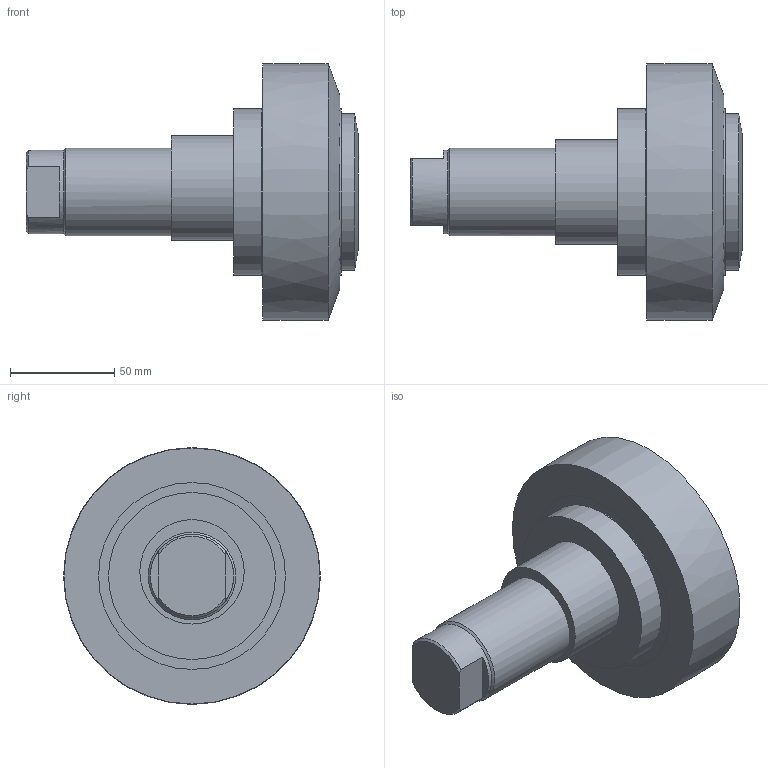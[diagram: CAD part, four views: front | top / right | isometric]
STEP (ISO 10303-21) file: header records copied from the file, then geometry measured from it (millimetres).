
FILE_DESCRIPTION(/* description */ ('-','CAx-IF Rec.Pracs.---Representation and Presentation of Product Manufacturing Information (PMI)---4.0---2014-10-13'),/* implementation_level */ '2;1');
FILE_NAME(/* name */ 'c:\temp\36f39eea-6d34-4348-86be-2152820ef6a5\7b49632a-ba37-4765-b574-ad73ea4f2f68.stp',/* time_stamp */ '2020-05-28T13:34:11+02:00',/* author */ ('-'),/* organization */ ('NTI CADcenter A/S'),/* preprocessor_version */ 'ST-DEVELOPER v18',/* originating_system */ 'Autodesk Inventor 2020',/* authorisation */ '-');
FILE_SCHEMA (('AP242_MANAGED_MODEL_BASED_3D_ENGINEERING_MIM_LF { 1 0 10303 442 1 1 4 }'));
Length unit declared in the file: millimetre
Products named in the file (1): TR 120.1360E_Kontur
Bounding box: 159 x 122.99 x 122.99 mm (x, y, z)
Volume: 1148270.7 mm3; surface area: 152903.1 mm2
Topology: 8 solids, 8 shells, 53 faces, 110 edges, 80 vertices
Faces by surface type: plane 29, cylinder 16, cone 7, bspline 1
Full cylindrical faces by diameter (mm): 40 x1, 42 x1, 47.9 x1, 50 x1, 71 x1, 75 x1, 79 x1, 80 x3, 84.5 x1, 86.8 x1, 89.5 x2
Entity records: 1665 total; most frequent: CARTESIAN_POINT 342, DIRECTION 279, ORIENTED_EDGE 220, AXIS2_PLACEMENT_3D 122, EDGE_CURVE 110, VERTEX_POINT 80, CIRCLE 69, STYLED_ITEM 61
